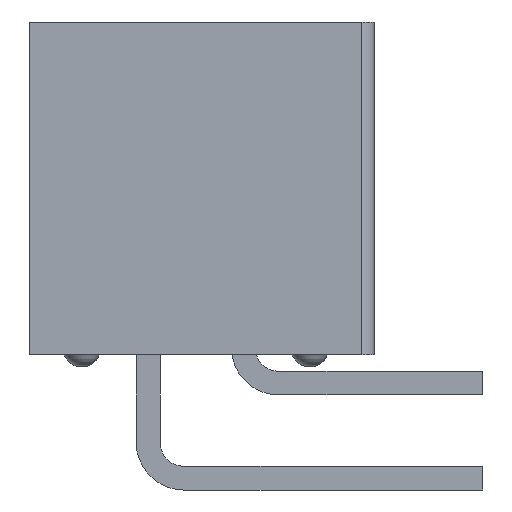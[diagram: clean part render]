
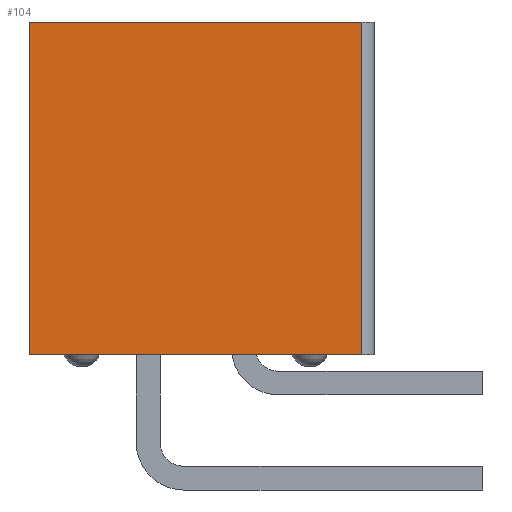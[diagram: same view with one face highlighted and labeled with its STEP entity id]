
A CAD part, left-side view. The second image highlights one B-rep face of the part: STEP entity #104.
In plain terms, the highlighted planar face has unit normal (-1, 0, 0).
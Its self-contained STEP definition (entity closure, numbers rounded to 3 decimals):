
#104=ADVANCED_FACE('',(#757),#758,.T.);
#757=FACE_OUTER_BOUND('',#1872,.T.);
#758=PLANE('',#1873);
#1872=EDGE_LOOP('',(#3598,#3599,#3600,#3601));
#1873=AXIS2_PLACEMENT_3D('',#3602,#3603,#3604);
#3598=ORIENTED_EDGE('',*,*,#7142,.T.);
#3599=ORIENTED_EDGE('',*,*,#7174,.F.);
#3600=ORIENTED_EDGE('',*,*,#7537,.F.);
#3601=ORIENTED_EDGE('',*,*,#7078,.T.);
#3602=CARTESIAN_POINT('',(-25.4,4.445,0.0));
#3603=DIRECTION('',(-1.0,0.0,0.0));
#3604=DIRECTION('',(0.0,0.0,1.0));
#7078=EDGE_CURVE('',#8445,#8443,#8446,.T.);
#7142=EDGE_CURVE('',#8443,#8561,#8564,.T.);
#7174=EDGE_CURVE('',#8619,#8561,#8621,.T.);
#7537=EDGE_CURVE('',#8445,#8619,#9301,.T.);
#8443=VERTEX_POINT('',#10707);
#8445=VERTEX_POINT('',#10710);
#8446=LINE('',#10711,#10712);
#8561=VERTEX_POINT('',#10884);
#8564=LINE('',#10888,#10889);
#8619=VERTEX_POINT('',#10972);
#8621=LINE('',#10975,#10976);
#9301=LINE('',#12012,#12013);
#10707=CARTESIAN_POINT('',(-25.4,4.445,0.0));
#10710=CARTESIAN_POINT('',(-25.4,-4.445,0.0));
#10711=CARTESIAN_POINT('',(-25.4,-4.445,0.0));
#10712=VECTOR('',#14130,8.89);
#10884=CARTESIAN_POINT('',(-25.4,4.445,-8.89));
#10888=CARTESIAN_POINT('',(-25.4,4.445,0.0));
#10889=VECTOR('',#14204,8.89);
#10972=CARTESIAN_POINT('',(-25.4,-4.445,-8.89));
#10975=CARTESIAN_POINT('',(-25.4,-4.445,-8.89));
#10976=VECTOR('',#14240,8.89);
#12012=CARTESIAN_POINT('',(-25.4,-4.445,0.0));
#12013=VECTOR('',#14644,8.89);
#14130=DIRECTION('',(0.0,1.0,0.0));
#14204=DIRECTION('',(0.0,0.0,-1.0));
#14240=DIRECTION('',(0.0,1.0,0.0));
#14644=DIRECTION('',(0.0,0.0,-1.0));
